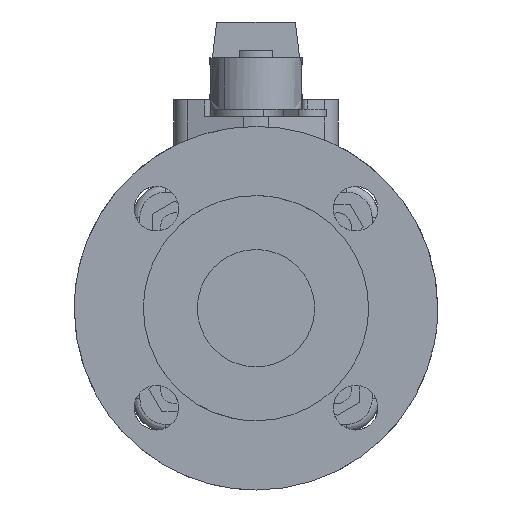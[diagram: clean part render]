
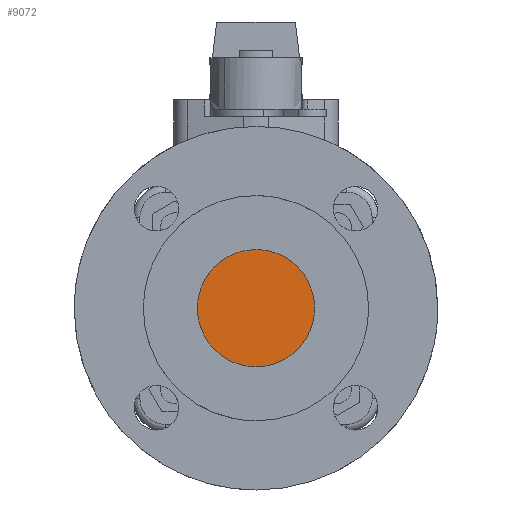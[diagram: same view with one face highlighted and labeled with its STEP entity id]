
A CAD part, left-side view. The second image highlights one B-rep face of the part: STEP entity #9072.
In plain terms, the highlighted free-form (B-spline) face has degree [1, 1] with [2, 2] control points.
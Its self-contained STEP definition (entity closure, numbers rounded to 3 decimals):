
#2909=CARTESIAN_POINT('',(-38.,17.209,18.134));
#2910=VERTEX_POINT('',#2909);
#2916=CARTESIAN_POINT('',(-38.,0.,25.));
#2917=VERTEX_POINT('',#2916);
#2918=CARTESIAN_POINT('',(-38.,0.,25.));
#2919=CARTESIAN_POINT('',(-38.,2.274,25.001));
#2920=CARTESIAN_POINT('',(-38.,6.524,24.416));
#2921=CARTESIAN_POINT('',(-38.,12.414,21.985));
#2922=CARTESIAN_POINT('',(-38.,15.703,19.564));
#2923=CARTESIAN_POINT('',(-38.,17.209,18.134));
#2924=B_SPLINE_CURVE_WITH_KNOTS('',3,(#2918,#2919,#2920,#2921,#2922,#2923),.UNSPECIFIED.,.F.,.U.,(4,1,1,4),(0.,6.821,12.753,18.981),.UNSPECIFIED.);
#2925=EDGE_CURVE('',#2917,#2910,#2924,.T.);
#2927=CARTESIAN_POINT('',(-38.,-25.,0.));
#2928=VERTEX_POINT('',#2927);
#2929=CARTESIAN_POINT('',(-38.,-25.,0.));
#2930=CARTESIAN_POINT('',(-38.,-25.,1.841));
#2931=CARTESIAN_POINT('',(-38.,-24.569,5.727));
#2932=CARTESIAN_POINT('',(-38.,-22.729,10.869));
#2933=CARTESIAN_POINT('',(-38.,-20.172,14.962));
#2934=CARTESIAN_POINT('',(-38.,-17.387,18.112));
#2935=CARTESIAN_POINT('',(-38.,-13.817,21.042));
#2936=CARTESIAN_POINT('',(-38.,-9.261,23.441));
#2937=CARTESIAN_POINT('',(-38.,-4.397,24.755));
#2938=CARTESIAN_POINT('',(-38.,-1.329,25.));
#2939=CARTESIAN_POINT('',(-38.,0.,25.));
#2940=B_SPLINE_CURVE_WITH_KNOTS('',3,(#2929,#2930,#2931,#2932,#2933,#2934,#2935,#2936,#2937,#2938,#2939),.UNSPECIFIED.,.F.,.U.,(4,1,1,1,1,1,1,1,4),(0.,5.522,11.658,16.26,19.942,24.237,30.066,35.282,39.27),.UNSPECIFIED.);
#2941=EDGE_CURVE('',#2928,#2917,#2940,.T.);
#2943=CARTESIAN_POINT('',(-38.,-17.209,-18.134));
#2944=VERTEX_POINT('',#2943);
#2945=CARTESIAN_POINT('',(-38.,-17.209,-18.134));
#2946=CARTESIAN_POINT('',(-38.,-18.512,-16.898));
#2947=CARTESIAN_POINT('',(-38.,-20.506,-14.548));
#2948=CARTESIAN_POINT('',(-38.,-22.981,-10.225));
#2949=CARTESIAN_POINT('',(-38.,-24.6,-5.495));
#2950=CARTESIAN_POINT('',(-38.,-25.,-1.796));
#2951=CARTESIAN_POINT('',(-38.,-25.,0.));
#2952=B_SPLINE_CURVE_WITH_KNOTS('',3,(#2945,#2946,#2947,#2948,#2949,#2950,#2951),.UNSPECIFIED.,.F.,.U.,(4,1,1,1,4),(0.,5.389,9.194,14.9,20.29),.UNSPECIFIED.);
#2953=EDGE_CURVE('',#2944,#2928,#2952,.T.);
#2994=CARTESIAN_POINT('',(-38.,0.,-25.));
#2995=VERTEX_POINT('',#2994);
#2996=CARTESIAN_POINT('',(-38.,0.,-25.));
#2997=CARTESIAN_POINT('',(-38.,-2.274,-25.001));
#2998=CARTESIAN_POINT('',(-38.,-5.931,-24.497));
#2999=CARTESIAN_POINT('',(-38.,-10.301,-22.873));
#3000=CARTESIAN_POINT('',(-38.,-13.868,-20.932));
#3001=CARTESIAN_POINT('',(-38.,-15.99,-19.291));
#3002=CARTESIAN_POINT('',(-38.,-17.209,-18.134));
#3003=B_SPLINE_CURVE_WITH_KNOTS('',3,(#2996,#2997,#2998,#2999,#3000,#3001,#3002),.UNSPECIFIED.,.F.,.U.,(4,1,1,1,4),(0.,6.821,10.973,13.939,18.981),.UNSPECIFIED.);
#3004=EDGE_CURVE('',#2995,#2944,#3003,.T.);
#3006=CARTESIAN_POINT('',(-38.,25.,0.));
#3007=VERTEX_POINT('',#3006);
#3008=CARTESIAN_POINT('',(-38.,25.,0.));
#3009=CARTESIAN_POINT('',(-38.,25.001,-2.557));
#3010=CARTESIAN_POINT('',(-38.,24.398,-6.442));
#3011=CARTESIAN_POINT('',(-38.,22.348,-11.478));
#3012=CARTESIAN_POINT('',(-38.,20.172,-14.962));
#3013=CARTESIAN_POINT('',(-38.,17.658,-17.804));
#3014=CARTESIAN_POINT('',(-38.,15.098,-20.013));
#3015=CARTESIAN_POINT('',(-38.,11.932,-22.101));
#3016=CARTESIAN_POINT('',(-38.,8.174,-23.766));
#3017=CARTESIAN_POINT('',(-38.,3.988,-24.787));
#3018=CARTESIAN_POINT('',(-38.,1.329,-25.));
#3019=CARTESIAN_POINT('',(-38.,0.,-25.));
#3020=B_SPLINE_CURVE_WITH_KNOTS('',3,(#3008,#3009,#3010,#3011,#3012,#3013,#3014,#3015,#3016,#3017,#3018,#3019),.UNSPECIFIED.,.F.,.U.,(4,1,1,1,1,1,1,1,1,4),(0.,7.67,11.658,16.26,19.942,23.01,26.385,31.293,35.282,39.27),.UNSPECIFIED.);
#3021=EDGE_CURVE('',#3007,#2995,#3020,.T.);
#3023=CARTESIAN_POINT('',(-38.,17.209,18.134));
#3024=CARTESIAN_POINT('',(-38.,18.666,16.753));
#3025=CARTESIAN_POINT('',(-38.,21.175,13.717));
#3026=CARTESIAN_POINT('',(-38.,23.379,9.23));
#3027=CARTESIAN_POINT('',(-38.,24.691,4.65));
#3028=CARTESIAN_POINT('',(-38.,25.,1.796));
#3029=CARTESIAN_POINT('',(-38.,25.,0.));
#3030=B_SPLINE_CURVE_WITH_KNOTS('',3,(#3023,#3024,#3025,#3026,#3027,#3028,#3029),.UNSPECIFIED.,.F.,.U.,(4,1,1,1,4),(0.,6.023,11.73,14.9,20.29),.UNSPECIFIED.);
#3031=EDGE_CURVE('',#2910,#3007,#3030,.T.);
#9059=CARTESIAN_POINT('',(-38.,-27.497,27.497));
#9060=CARTESIAN_POINT('',(-38.,-27.497,-27.498));
#9061=CARTESIAN_POINT('',(-38.,27.498,27.497));
#9062=CARTESIAN_POINT('',(-38.,27.498,-27.498));
#9063=B_SPLINE_SURFACE_WITH_KNOTS('',1,1,((#9059,#9061),(#9060,#9062)),.UNSPECIFIED.,.F.,.F.,.U.,(2,2),(2,2),(0.,54.995),(0.,54.995),.UNSPECIFIED.);
#9064=ORIENTED_EDGE('',*,*,#3004,.T.);
#9065=ORIENTED_EDGE('',*,*,#2953,.T.);
#9066=ORIENTED_EDGE('',*,*,#2941,.T.);
#9067=ORIENTED_EDGE('',*,*,#2925,.T.);
#9068=ORIENTED_EDGE('',*,*,#3031,.T.);
#9069=ORIENTED_EDGE('',*,*,#3021,.T.);
#9070=EDGE_LOOP('',(#9064,#9065,#9066,#9067,#9068,#9069));
#9071=FACE_OUTER_BOUND('',#9070,.T.);
#9072=ADVANCED_FACE('',(#9071),#9063,.F.);
